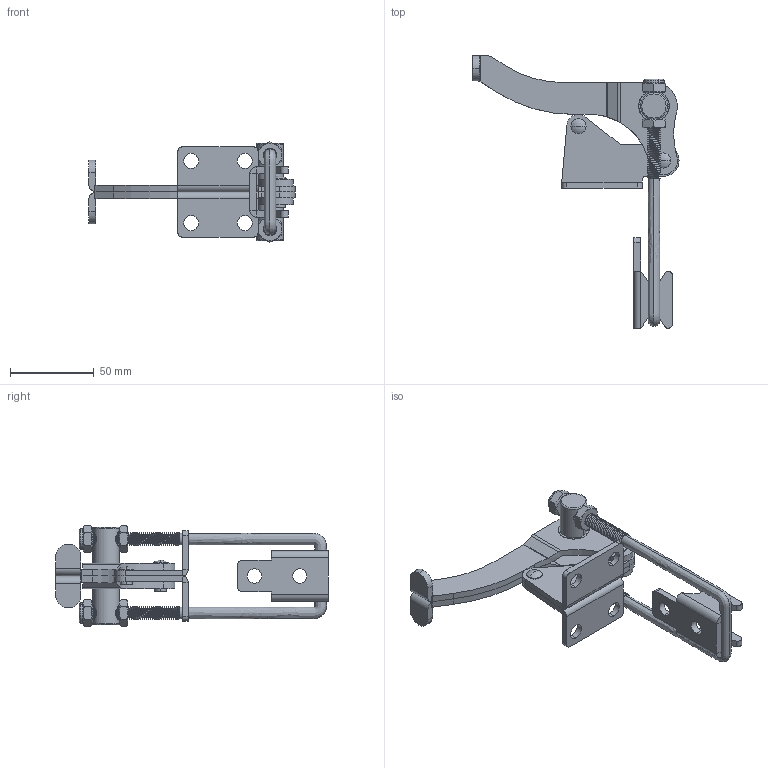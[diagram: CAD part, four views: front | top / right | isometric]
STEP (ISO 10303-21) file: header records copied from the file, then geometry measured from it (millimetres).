
FILE_DESCRIPTION (( 'STEP AP203' ), '1' );
FILE_NAME ('SK3-021T-3.STEP', '2018-11-01T08:27:36', ( 'admin' ), ( 'Microsoft' ), 'SwSTEP 2.0', 'SolidWorks 2015', '' );
FILE_SCHEMA (( 'CONFIG_CONTROL_DESIGN' ));
Length unit declared in the file: millimetre
Products named in the file (13): SK3-021T-3 种隊; SK3-021T-3 菁釱 酘; SK3-021T-3 种隊 酗; SK3-021T-3  參忒 衵; M8 蹟簽2; SK3-021T-3  參忒 酘; M8 1.25鼠備酗僅5; SK3-021T-3 菁釱 衵; SK3-021T-3; SK3-021T-3 蜇璃1; SK3-021T-3 蜇璃2; SK3-021T-3 蹟裝; SK3-021T-3 ͷ
Assembly tree (14 placements, depth 2):
  SK3-021T-3
    SK3-021T-3 菁釱 酘
    SK3-021T-3  參忒 衵
    SK3-021T-3  參忒 酘
    SK3-021T-3 菁釱 衵
    SK3-021T-3 蜇璃1
    SK3-021T-3 蜇璃2
    SK3-021T-3 蹟裝
    SK3-021T-3 ͷ
    SK3-021T-3 种隊
    SK3-021T-3 种隊 酗
    M8 蹟簽2  x2
    M8 1.25鼠備酗僅5  x2
Bounding box: 123 x 162.5 x 60.17 mm (x, y, z)
Volume: 78902.7 mm3; surface area: 53403.2 mm2
Topology: 14 solids, 14 shells, 511 faces, 1397 edges, 916 vertices
Faces by surface type: cylinder 315, plane 134, cone 32, bspline 14, torus 12, sphere 4
Entity records: 29311 total; most frequent: CARTESIAN_POINT 16984, ORIENTED_EDGE 2586, DIRECTION 2025, EDGE_CURVE 1293, VERTEX_POINT 848, AXIS2_PLACEMENT_3D 754, LINE 517, VECTOR 517
